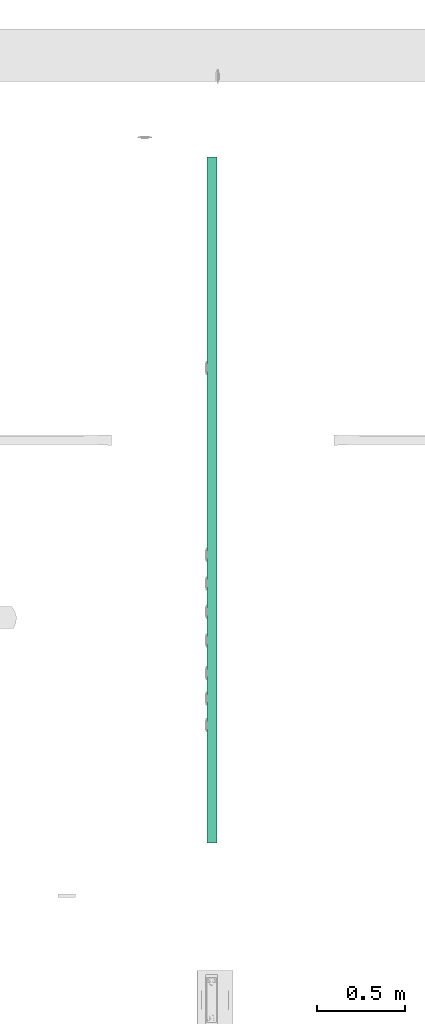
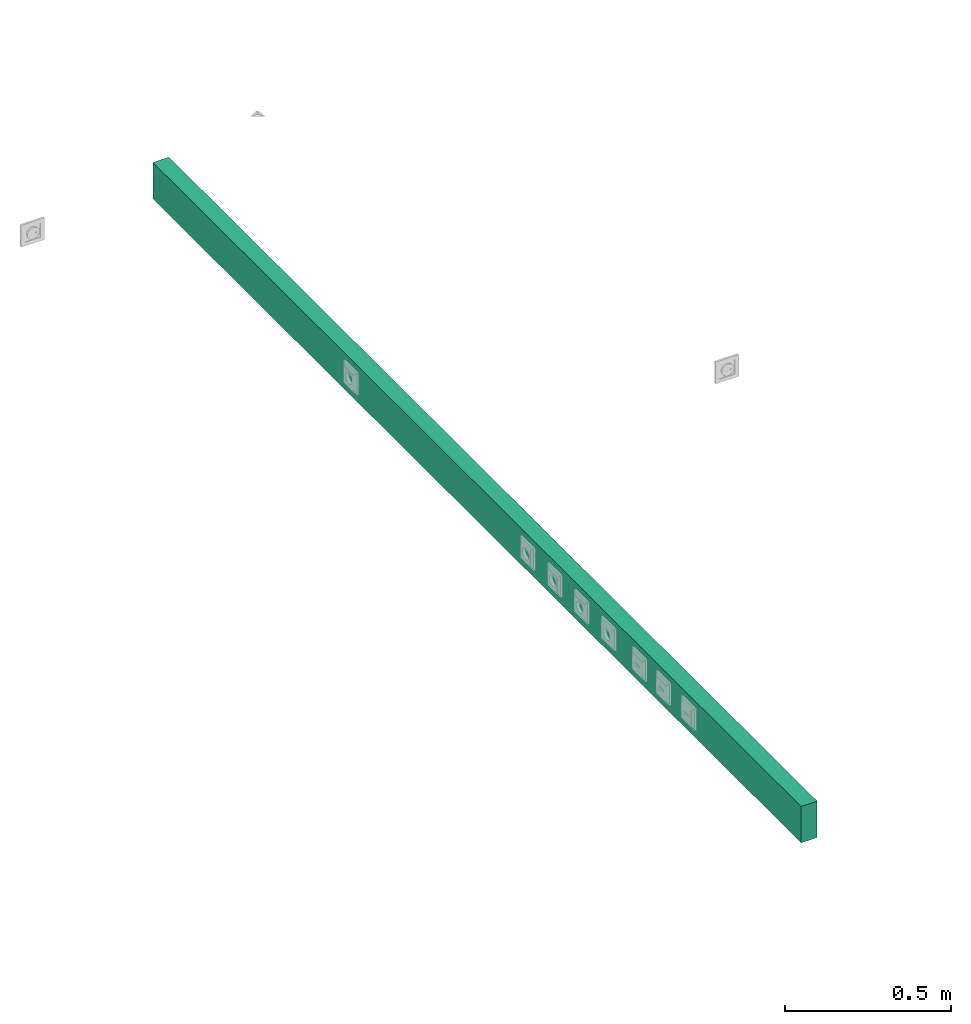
# One storey, part 13 of 166: 1 flow segment.
"""IFC2X3 building model written with IfcOpenShell, lengths in metres."""

from ifc_helpers import new_model, entity, si_unit, converted_unit, derived_unit, direction, frame, origin, origin_2d_with_axis, place, context, subcontext, project, spatial, rectangle, extrude, type_object, element, save


model = new_model("IFC2X3")

# Units and contexts
model_context = context("Model", 3, precision=1e-05, world=origin(), true_north=direction((6.12303176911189e-17, 1.0)))
body_context = subcontext(model_context, "Body", "Model", "MODEL_VIEW")
ifc_project = project(units=[si_unit("LENGTHUNIT", "METRE"), si_unit("AREAUNIT", "SQUARE_METRE"), si_unit("VOLUMEUNIT", "CUBIC_METRE"), converted_unit("PLANEANGLEUNIT", "DEGREE", entity("IfcRatioMeasure", 0.0174532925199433), si_unit("PLANEANGLEUNIT", "RADIAN"), dimensions=[0, 0, 0, 0, 0, 0, 0]), si_unit("MASSUNIT", "GRAM", prefix="KILO"), derived_unit("MASSDENSITYUNIT", [(si_unit("MASSUNIT", "GRAM", prefix="KILO"), 1), (si_unit("LENGTHUNIT", "METRE"), -3)]), si_unit("TIMEUNIT", "SECOND"), si_unit("FREQUENCYUNIT", "HERTZ"), si_unit("THERMODYNAMICTEMPERATUREUNIT", "DEGREE_CELSIUS"), derived_unit("THERMALTRANSMITTANCEUNIT", [(si_unit("MASSUNIT", "GRAM", prefix="KILO"), 1), (si_unit("THERMODYNAMICTEMPERATUREUNIT", "KELVIN"), -1), (si_unit("TIMEUNIT", "SECOND"), -3)]), derived_unit("VOLUMETRICFLOWRATEUNIT", [(si_unit("LENGTHUNIT", "METRE"), 3), (si_unit("TIMEUNIT", "SECOND"), -1)]), si_unit("ELECTRICCURRENTUNIT", "AMPERE"), si_unit("ELECTRICVOLTAGEUNIT", "VOLT"), si_unit("POWERUNIT", "WATT"), si_unit("FORCEUNIT", "NEWTON"), si_unit("ILLUMINANCEUNIT", "LUX"), si_unit("LUMINOUSFLUXUNIT", "LUMEN"), si_unit("LUMINOUSINTENSITYUNIT", "CANDELA"), derived_unit("USERDEFINED", [(si_unit("MASSUNIT", "GRAM", prefix="KILO"), -1), (si_unit("LENGTHUNIT", "METRE"), -2), (si_unit("TIMEUNIT", "SECOND"), 3), (si_unit("LUMINOUSFLUXUNIT", "LUMEN"), 1)]), derived_unit("LINEARVELOCITYUNIT", [(si_unit("LENGTHUNIT", "METRE"), 1), (si_unit("TIMEUNIT", "SECOND"), -1)]), si_unit("PRESSUREUNIT", "PASCAL"), derived_unit("USERDEFINED", [(si_unit("LENGTHUNIT", "METRE"), -2), (si_unit("MASSUNIT", "GRAM", prefix="KILO"), 1), (si_unit("TIMEUNIT", "SECOND"), -2)])], contexts=[model_context])

# Site, building, storey
site_placement = place(None, origin())
site = spatial("IfcSite", under=ifc_project, at=site_placement, Name="Default", CompositionType="ELEMENT")
building_placement = place(site_placement, origin())
building = spatial("IfcBuilding", under=site, at=building_placement, CompositionType="ELEMENT")
storey_placement = place(building_placement, frame((0.0, 0.0, 4.27)))
storey = spatial("IfcBuildingStorey", under=building, at=storey_placement, Name="01", CompositionType="ELEMENT", Elevation=4.27)

# Flow segment
cable_carrier_segment_type = type_object("IfcCableCarrierSegmentType", Name="Cable Tray with Fittings:Goulottes de câbles indéfini_Goulottes de câbles", PredefinedType="NOTDEFINED")
flow_segment_placement = place(storey_placement, origin())
element("IfcFlowSegment", 1, at=flow_segment_placement, inside=storey, type_object=cable_carrier_segment_type, Name="Cable Tray with Fittings:Goulottes de câbles indéfini_Goulottes de câbles", ObjectType="Cable Tray with Fittings:Goulottes de câbles indéfini_Goulottes de câbles", context=body_context, shape_type="SweptSolid", body=[
    extrude(rectangle(XDim=3.91600000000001, YDim=0.0560000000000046, at=origin_2d_with_axis()), frame((57.3947436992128, -191.240069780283, 0.366), z_axis=(0.0, 0.0, 1.0), x_axis=(0.0, 1.0, 0.0)), (0.0, 0.0, 1.0), 0.134),
])

save(model, "model.ifc")
